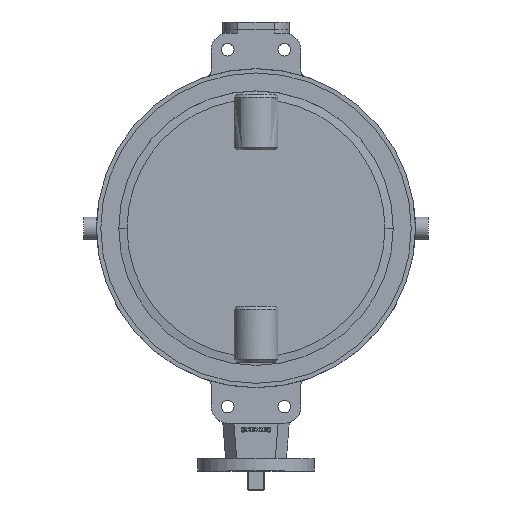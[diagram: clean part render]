
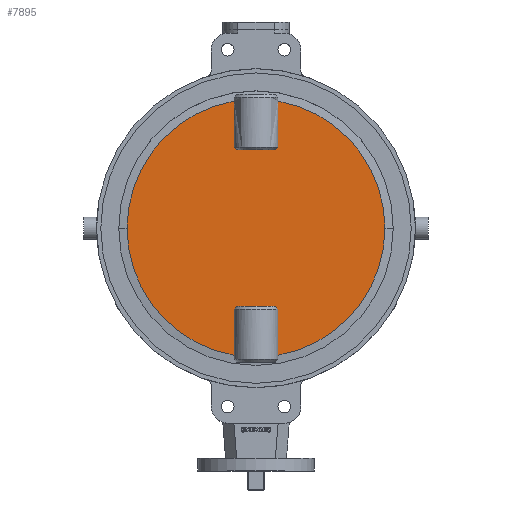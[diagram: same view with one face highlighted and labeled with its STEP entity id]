
A CAD part, top view. The second image highlights one B-rep face of the part: STEP entity #7895.
In plain terms, the highlighted planar face has unit normal (0, 0, 1).
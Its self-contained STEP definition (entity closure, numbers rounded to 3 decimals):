
#7466=CARTESIAN_POINT('',(232.,0.,70.363));
#7467=VERTEX_POINT('',#7466);
#7474=CARTESIAN_POINT('',(39.407,-228.629,70.363));
#7475=VERTEX_POINT('',#7474);
#7476=CARTESIAN_POINT('',(0.0,0.0,70.363));
#7477=DIRECTION('',(0.0,0.0,-1.0));
#7478=DIRECTION('',(1.0,0.0,0.0));
#7479=AXIS2_PLACEMENT_3D('',#7476,#7477,#7478);
#7480=CIRCLE('',#7479,232.);
#7481=EDGE_CURVE('',#7467,#7475,#7480,.T.);
#7525=CARTESIAN_POINT('',(-39.407,-228.629,70.363));
#7526=VERTEX_POINT('',#7525);
#7534=CARTESIAN_POINT('',(-232.,0.,70.363));
#7535=VERTEX_POINT('',#7534);
#7536=CARTESIAN_POINT('',(0.0,0.0,70.363));
#7537=DIRECTION('',(0.0,0.0,-1.0));
#7538=DIRECTION('',(1.0,0.0,0.0));
#7539=AXIS2_PLACEMENT_3D('',#7536,#7537,#7538);
#7540=CIRCLE('',#7539,232.);
#7541=EDGE_CURVE('',#7526,#7535,#7540,.T.);
#7629=CARTESIAN_POINT('',(-39.407,-145.825,70.363));
#7630=VERTEX_POINT('',#7629);
#7631=CARTESIAN_POINT('',(-34.32,-140.825,70.363));
#7632=VERTEX_POINT('',#7631);
#7633=CARTESIAN_POINT('',(-39.407,-145.825,70.363));
#7634=CARTESIAN_POINT('',(-36.694,-143.153,70.363));
#7635=CARTESIAN_POINT('',(-34.32,-140.825,70.363));
#7643=(BOUNDED_CURVE()B_SPLINE_CURVE(2,(#7633,#7634,#7635),.UNSPECIFIED.,.F.,.U.)B_SPLINE_CURVE_WITH_KNOTS((3,3),(0.0,7.132),.UNSPECIFIED.)CURVE()GEOMETRIC_REPRESENTATION_ITEM()RATIONAL_B_SPLINE_CURVE((1.0,1.002,1.0))REPRESENTATION_ITEM(''));
#7644=EDGE_CURVE('',#7630,#7632,#7643,.T.);
#7646=CARTESIAN_POINT('',(39.407,-145.825,70.363));
#7647=VERTEX_POINT('',#7646);
#7655=CARTESIAN_POINT('',(34.32,-140.825,70.363));
#7656=VERTEX_POINT('',#7655);
#7657=CARTESIAN_POINT('',(34.32,-140.825,70.363));
#7658=CARTESIAN_POINT('',(36.694,-143.153,70.363));
#7659=CARTESIAN_POINT('',(39.407,-145.825,70.363));
#7667=(BOUNDED_CURVE()B_SPLINE_CURVE(2,(#7657,#7658,#7659),.UNSPECIFIED.,.F.,.U.)B_SPLINE_CURVE_WITH_KNOTS((3,3),(0.0,7.132),.UNSPECIFIED.)CURVE()GEOMETRIC_REPRESENTATION_ITEM()RATIONAL_B_SPLINE_CURVE((1.0,1.002,1.0))REPRESENTATION_ITEM(''));
#7668=EDGE_CURVE('',#7656,#7647,#7667,.T.);
#7715=CARTESIAN_POINT('',(-39.407,-228.629,70.363));
#7716=DIRECTION('',(0.0,1.0,0.0));
#7717=VECTOR('',#7716,82.803);
#7718=LINE('',#7715,#7717);
#7719=EDGE_CURVE('',#7526,#7630,#7718,.T.);
#7730=CARTESIAN_POINT('',(39.407,-145.825,70.363));
#7731=DIRECTION('',(0.0,-1.0,0.0));
#7732=VECTOR('',#7731,82.803);
#7733=LINE('',#7730,#7732);
#7734=EDGE_CURVE('',#7647,#7475,#7733,.T.);
#7801=CARTESIAN_POINT('',(-34.32,-140.825,70.363));
#7802=DIRECTION('',(1.0,0.0,0.0));
#7803=VECTOR('',#7802,68.641);
#7804=LINE('',#7801,#7803);
#7805=EDGE_CURVE('',#7632,#7656,#7804,.T.);
#7811=CARTESIAN_POINT('',(0.0,0.0,70.363));
#7812=DIRECTION('',(0.0,0.0,1.0));
#7813=DIRECTION('',(-1.0,0.0,0.0));
#7814=AXIS2_PLACEMENT_3D('',#7811,#7812,#7813);
#7815=PLANE('',#7814);
#7816=ORIENTED_EDGE('',*,*,#7719,.T.);
#7817=ORIENTED_EDGE('',*,*,#7644,.T.);
#7818=ORIENTED_EDGE('',*,*,#7805,.T.);
#7819=ORIENTED_EDGE('',*,*,#7668,.T.);
#7820=ORIENTED_EDGE('',*,*,#7734,.T.);
#7821=ORIENTED_EDGE('',*,*,#7481,.F.);
#7822=CARTESIAN_POINT('',(39.407,228.629,70.363));
#7823=VERTEX_POINT('',#7822);
#7824=CARTESIAN_POINT('',(0.0,0.0,70.363));
#7825=DIRECTION('',(0.0,0.0,-1.0));
#7826=DIRECTION('',(1.0,0.0,0.0));
#7827=AXIS2_PLACEMENT_3D('',#7824,#7825,#7826);
#7828=CIRCLE('',#7827,232.);
#7829=EDGE_CURVE('',#7823,#7467,#7828,.T.);
#7830=ORIENTED_EDGE('',*,*,#7829,.F.);
#7831=CARTESIAN_POINT('',(39.407,145.825,70.363));
#7832=VERTEX_POINT('',#7831);
#7833=CARTESIAN_POINT('',(39.407,145.825,70.363));
#7834=DIRECTION('',(0.0,1.0,0.0));
#7835=VECTOR('',#7834,82.803);
#7836=LINE('',#7833,#7835);
#7837=EDGE_CURVE('',#7832,#7823,#7836,.T.);
#7838=ORIENTED_EDGE('',*,*,#7837,.F.);
#7839=CARTESIAN_POINT('',(34.32,140.825,70.363));
#7840=VERTEX_POINT('',#7839);
#7841=CARTESIAN_POINT('',(34.32,140.825,70.363));
#7842=CARTESIAN_POINT('',(36.694,143.153,70.363));
#7843=CARTESIAN_POINT('',(39.407,145.825,70.363));
#7851=(BOUNDED_CURVE()B_SPLINE_CURVE(2,(#7841,#7842,#7843),.UNSPECIFIED.,.F.,.U.)B_SPLINE_CURVE_WITH_KNOTS((3,3),(0.0,7.132),.UNSPECIFIED.)CURVE()GEOMETRIC_REPRESENTATION_ITEM()RATIONAL_B_SPLINE_CURVE((1.0,1.002,1.0))REPRESENTATION_ITEM(''));
#7852=EDGE_CURVE('',#7840,#7832,#7851,.T.);
#7853=ORIENTED_EDGE('',*,*,#7852,.F.);
#7854=CARTESIAN_POINT('',(-34.32,140.825,70.363));
#7855=VERTEX_POINT('',#7854);
#7856=CARTESIAN_POINT('',(-34.32,140.825,70.363));
#7857=DIRECTION('',(1.0,0.0,0.0));
#7858=VECTOR('',#7857,68.641);
#7859=LINE('',#7856,#7858);
#7860=EDGE_CURVE('',#7855,#7840,#7859,.T.);
#7861=ORIENTED_EDGE('',*,*,#7860,.F.);
#7862=CARTESIAN_POINT('',(-39.407,145.825,70.363));
#7863=VERTEX_POINT('',#7862);
#7864=CARTESIAN_POINT('',(-39.407,145.825,70.363));
#7865=CARTESIAN_POINT('',(-36.694,143.153,70.363));
#7866=CARTESIAN_POINT('',(-34.32,140.825,70.363));
#7874=(BOUNDED_CURVE()B_SPLINE_CURVE(2,(#7864,#7865,#7866),.UNSPECIFIED.,.F.,.U.)B_SPLINE_CURVE_WITH_KNOTS((3,3),(0.0,7.132),.UNSPECIFIED.)CURVE()GEOMETRIC_REPRESENTATION_ITEM()RATIONAL_B_SPLINE_CURVE((1.0,1.002,1.0))REPRESENTATION_ITEM(''));
#7875=EDGE_CURVE('',#7863,#7855,#7874,.T.);
#7876=ORIENTED_EDGE('',*,*,#7875,.F.);
#7877=CARTESIAN_POINT('',(-39.407,228.629,70.363));
#7878=VERTEX_POINT('',#7877);
#7879=CARTESIAN_POINT('',(-39.407,228.629,70.363));
#7880=DIRECTION('',(0.0,-1.0,0.0));
#7881=VECTOR('',#7880,82.803);
#7882=LINE('',#7879,#7881);
#7883=EDGE_CURVE('',#7878,#7863,#7882,.T.);
#7884=ORIENTED_EDGE('',*,*,#7883,.F.);
#7885=CARTESIAN_POINT('',(0.0,0.0,70.363));
#7886=DIRECTION('',(0.0,0.0,-1.0));
#7887=DIRECTION('',(1.0,0.0,0.0));
#7888=AXIS2_PLACEMENT_3D('',#7885,#7886,#7887);
#7889=CIRCLE('',#7888,232.);
#7890=EDGE_CURVE('',#7535,#7878,#7889,.T.);
#7891=ORIENTED_EDGE('',*,*,#7890,.F.);
#7892=ORIENTED_EDGE('',*,*,#7541,.F.);
#7893=EDGE_LOOP('',(#7816,#7817,#7818,#7819,#7820,#7821,#7830,#7838,#7853,#7861,#7876,#7884,#7891,#7892));
#7894=FACE_OUTER_BOUND('',#7893,.T.);
#7895=ADVANCED_FACE('',(#7894),#7815,.T.);
